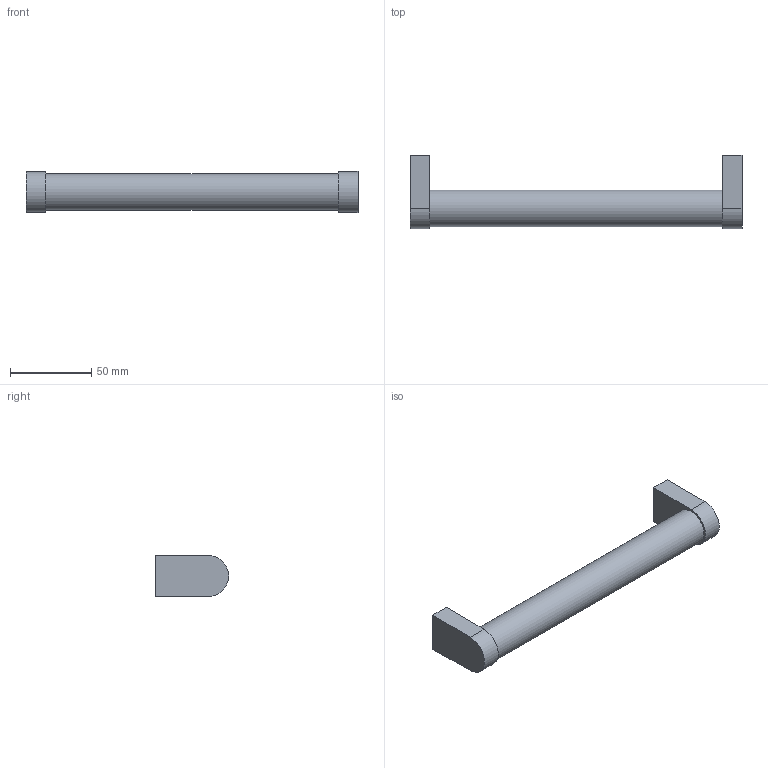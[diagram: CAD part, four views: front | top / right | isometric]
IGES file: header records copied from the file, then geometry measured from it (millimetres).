
Start section: Data from Parasolid IGES Translator 15.0.47, Copyright(c) 2006 Siemens P LM Software. All Rights Reserved.
Global section: file name: 115077.igs; native system:  By UGS Corp.; preprocessor: XPlus GENERIC/IGES 3.0; author: Noname; organization: Noname; date: 20140122.172741; units: millimetre
Bounding box: 204 x 45 x 25.68 mm (x, y, z)
Surface area: 19525.2 mm2 (no closed solid volume)
Topology: 0 solids, 0 shells, 17 faces, 66 edges, 62 vertices
Faces by surface type: extrusion 12, revolution 5
